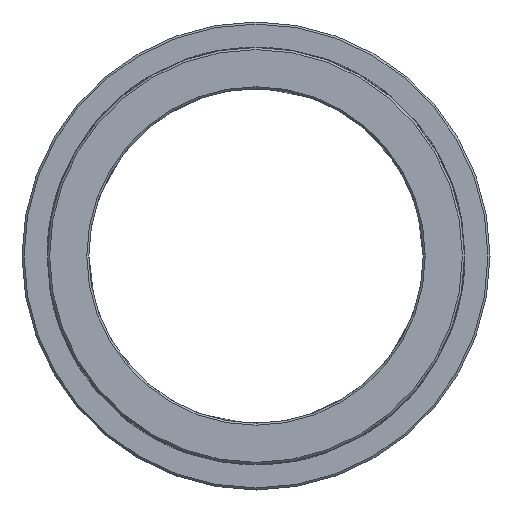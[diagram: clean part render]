
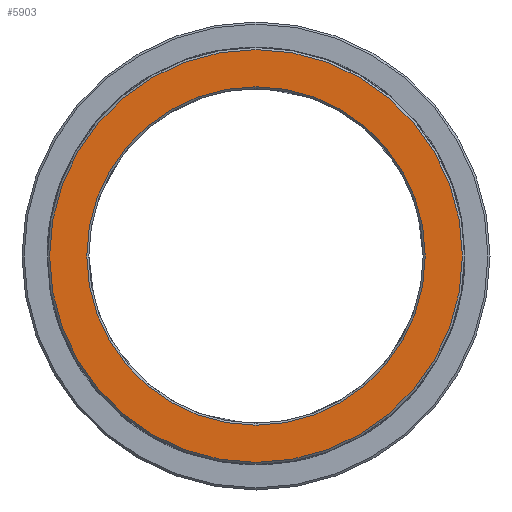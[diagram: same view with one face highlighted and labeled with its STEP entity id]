
A CAD part, front view. The second image highlights one B-rep face of the part: STEP entity #5903.
In plain terms, the highlighted planar face has unit normal (0, -1, 0).
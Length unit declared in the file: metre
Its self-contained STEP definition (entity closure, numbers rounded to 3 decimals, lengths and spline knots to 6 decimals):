
#5903 = ADVANCED_FACE( '', ( #6591, #6592 ), #6593, .T. );
#6591 = FACE_OUTER_BOUND( '', #7773, .T. );
#6592 = FACE_BOUND( '', #7774, .T. );
#6593 = PLANE( '', #7775 );
#7773 = EDGE_LOOP( '', ( #9087 ) );
#7774 = EDGE_LOOP( '', ( #9088 ) );
#7775 = AXIS2_PLACEMENT_3D( '', #9089, #9090, #9091 );
#9087 = ORIENTED_EDGE( '', *, *, #10815, .T. );
#9088 = ORIENTED_EDGE( '', *, *, #10814, .F. );
#9089 = CARTESIAN_POINT( '', ( 0.0405, 0., 0. ) );
#9090 = DIRECTION( '', ( 0., -1., 0. ) );
#9091 = DIRECTION( '', ( 0., 0., -1. ) );
#10814 = EDGE_CURVE( '', #11315, #11315, #11316, .T. );
#10815 = EDGE_CURVE( '', #11317, #11317, #11318, .T. );
#11315 = VERTEX_POINT( '', #19623 );
#11316 = CIRCLE( '', #19624, 0.0405 );
#11317 = VERTEX_POINT( '', #19625 );
#11318 = CIRCLE( '', #19626, 0.0494 );
#19623 = CARTESIAN_POINT( '', ( 0., 0., -0.0405 ) );
#19624 = AXIS2_PLACEMENT_3D( '', #35258, #35259, #35260 );
#19625 = CARTESIAN_POINT( '', ( 0., 0., -0.0494 ) );
#19626 = AXIS2_PLACEMENT_3D( '', #35261, #35262, #35263 );
#35258 = CARTESIAN_POINT( '', ( 0., 0., 0. ) );
#35259 = DIRECTION( '', ( 0., -1., 0. ) );
#35260 = DIRECTION( '', ( 0., 0., -1. ) );
#35261 = CARTESIAN_POINT( '', ( 0., 0., 0. ) );
#35262 = DIRECTION( '', ( 0., -1., 0. ) );
#35263 = DIRECTION( '', ( 0., 0., -1. ) );
